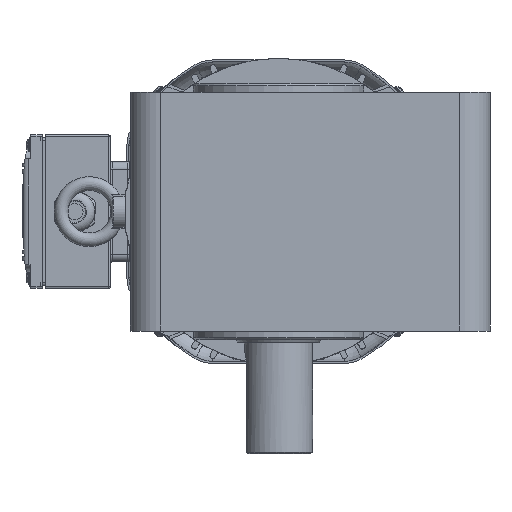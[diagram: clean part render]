
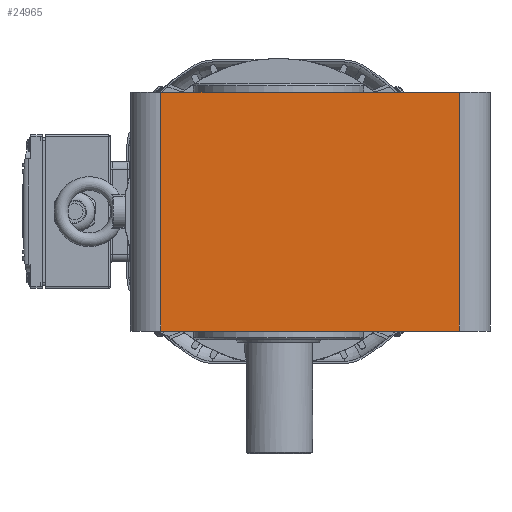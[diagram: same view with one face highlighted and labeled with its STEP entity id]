
A CAD part, left-side view. The second image highlights one B-rep face of the part: STEP entity #24965.
In plain terms, the highlighted planar face has unit normal (-1, 0, 0).
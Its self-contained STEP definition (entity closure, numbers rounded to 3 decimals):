
#692=PLANE('',#27427);
#1833=FACE_OUTER_BOUND('',#3322,.T.);
#3322=EDGE_LOOP('',(#19976,#19977,#19978,#19979));
#6616=LINE('',#42453,#8552);
#6641=LINE('',#42563,#8577);
#6642=LINE('',#42567,#8578);
#6643=LINE('',#42568,#8579);
#8552=VECTOR('',#33275,175.);
#8577=VECTOR('',#33390,140.);
#8578=VECTOR('',#33395,140.);
#8579=VECTOR('',#33396,175.);
#11118=VERTEX_POINT('',#42450);
#11119=VERTEX_POINT('',#42452);
#11159=VERTEX_POINT('',#42562);
#11160=VERTEX_POINT('',#42566);
#14218=EDGE_CURVE('',#11119,#11118,#6616,.T.);
#14271=EDGE_CURVE('',#11119,#11159,#6641,.T.);
#14273=EDGE_CURVE('',#11160,#11118,#6642,.T.);
#14274=EDGE_CURVE('',#11160,#11159,#6643,.T.);
#19976=ORIENTED_EDGE('',*,*,#14271,.F.);
#19977=ORIENTED_EDGE('',*,*,#14218,.T.);
#19978=ORIENTED_EDGE('',*,*,#14273,.F.);
#19979=ORIENTED_EDGE('',*,*,#14274,.T.);
#24965=ADVANCED_FACE('',(#1833),#692,.T.);
#27427=AXIS2_PLACEMENT_3D('',#42565,#33393,#33394);
#33275=DIRECTION('',(0.,1.,0.));
#33390=DIRECTION('',(0.,0.,-1.));
#33393=DIRECTION('center_axis',(-1.,0.,0.));
#33394=DIRECTION('ref_axis',(0.,0.,1.));
#33395=DIRECTION('',(0.,0.,1.));
#33396=DIRECTION('',(0.,-1.,0.));
#42450=CARTESIAN_POINT('',(-130.448,74.377,96.));
#42452=CARTESIAN_POINT('',(-130.448,-100.623,96.));
#42453=CARTESIAN_POINT('',(-130.448,-100.623,96.));
#42562=CARTESIAN_POINT('',(-130.448,-100.623,-44.));
#42563=CARTESIAN_POINT('',(-130.448,-100.623,96.));
#42565=CARTESIAN_POINT('Origin',(-130.448,-118.623,-44.));
#42566=CARTESIAN_POINT('',(-130.448,74.377,-44.));
#42567=CARTESIAN_POINT('',(-130.448,74.377,-44.));
#42568=CARTESIAN_POINT('',(-130.448,74.377,-44.));
